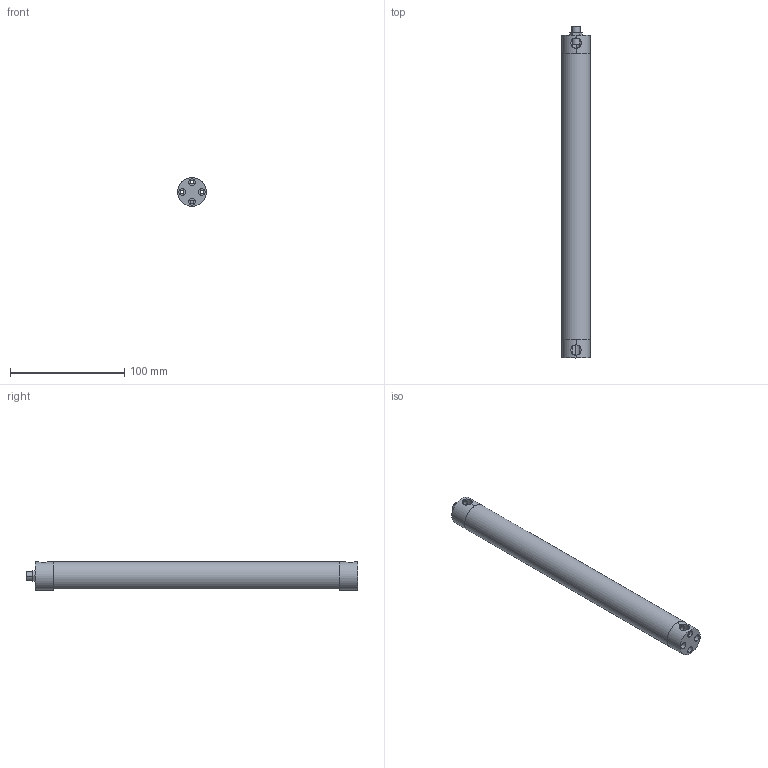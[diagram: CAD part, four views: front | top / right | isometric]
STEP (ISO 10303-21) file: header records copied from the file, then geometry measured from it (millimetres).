
FILE_DESCRIPTION (( 'STEP AP214' ), '1' );
FILE_NAME ('Assemblage Profilé tube 10 LED.STEP', '2012-01-14T10:59:59', ( 'JRLEDS' ), ( '' ), 'SwSTEP 2.0', 'SolidWorks 2010', '' );
FILE_SCHEMA (( 'AUTOMOTIVE_DESIGN' ));
Length unit declared in the file: millimetre
Products named in the file (7): Diffusant 250mm; Connecteur M8; Assemblage Profilé tube 10 LED; Profilé tube 250mm; Embout non percé; Circuit 5 XPE 10mm
Assembly tree (7 placements, depth 2):
  Assemblage Profilé tube 10 LED
    Circuit 5 XPE 10mm  x2
    Diffusant 250mm
    Connecteur M8
    Profilé tube 250mm
    Embout non percé
    Embout non percé
Bounding box: 25.01 x 290 x 25.01 mm (x, y, z)
Volume: 74893.9 mm3; surface area: 66742.3 mm2
Topology: 7 solids, 7 shells, 218 faces, 543 edges, 360 vertices
Faces by surface type: plane 111, cylinder 94, cone 13
Entity records: 6678 total; most frequent: CARTESIAN_POINT 1542, DIRECTION 987, ORIENTED_EDGE 942, EDGE_CURVE 471, AXIS2_PLACEMENT_3D 367, VERTEX_POINT 312, LINE 253, VECTOR 253
